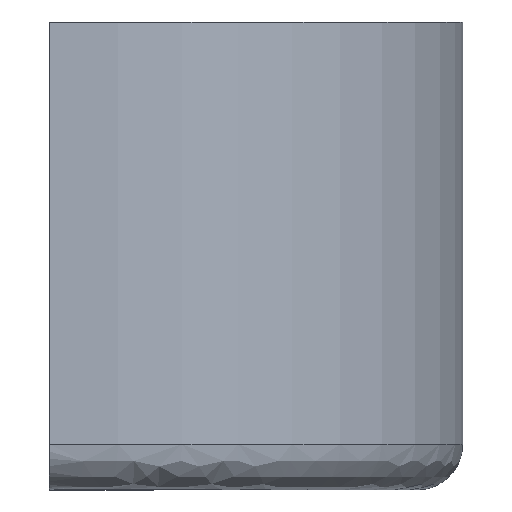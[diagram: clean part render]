
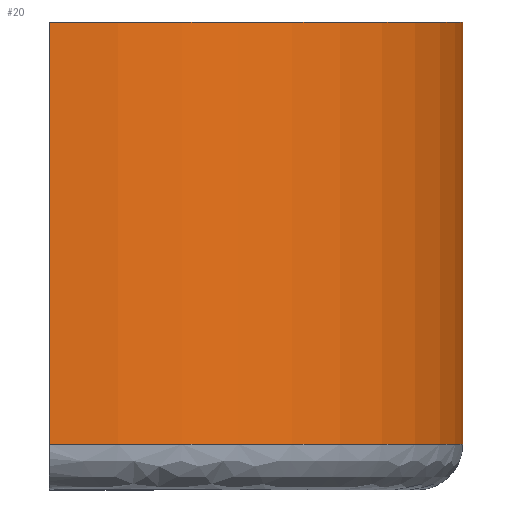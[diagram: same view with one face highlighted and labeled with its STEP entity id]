
A CAD part, left-side view. The second image highlights one B-rep face of the part: STEP entity #20.
In plain terms, the highlighted free-form (B-spline) face has degree [2, 1] with [3, 2] control points.
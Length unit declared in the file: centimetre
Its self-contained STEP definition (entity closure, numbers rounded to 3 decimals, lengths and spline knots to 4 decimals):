
#20=ADVANCED_FACE('',(#39),#269,.T.);
#39=FACE_OUTER_BOUND('',#59,.T.);
#59=EDGE_LOOP('',(#91,#92,#93,#94));
#91=ORIENTED_EDGE('',*,*,#165,.T.);
#92=ORIENTED_EDGE('',*,*,#155,.F.);
#93=ORIENTED_EDGE('',*,*,#166,.F.);
#94=ORIENTED_EDGE('',*,*,#162,.F.);
#155=EDGE_CURVE('',#239,#238,#194,.T.);
#162=EDGE_CURVE('',#246,#243,#198,.T.);
#165=EDGE_CURVE('',#246,#238,#219,.T.);
#166=EDGE_CURVE('',#243,#239,#220,.T.);
#194=B_SPLINE_CURVE_WITH_KNOTS('',1,(#690,#691),.UNSPECIFIED.,.F.,.F.,(2,
2),(-2.0743,-0.7762),.UNSPECIFIED.);
#198=B_SPLINE_CURVE_WITH_KNOTS('',1,(#707,#708),.UNSPECIFIED.,.F.,.F.,(2,
2),(49.6127,52.5616),.UNSPECIFIED.);
#219=(
BOUNDED_CURVE()
B_SPLINE_CURVE(2,(#715,#716,#717),.UNSPECIFIED.,.F.,.F.)
B_SPLINE_CURVE_WITH_KNOTS((3,3),(18.8491,25.1321),
 .UNSPECIFIED.)
CURVE()
GEOMETRIC_REPRESENTATION_ITEM()
RATIONAL_B_SPLINE_CURVE((1.,0.707,1.))
REPRESENTATION_ITEM('')
);
#220=(
BOUNDED_CURVE()
B_SPLINE_CURVE(2,(#718,#719,#720),.UNSPECIFIED.,.F.,.F.)
B_SPLINE_CURVE_WITH_KNOTS((3,3),(23.5619,31.4159),
 .UNSPECIFIED.)
CURVE()
GEOMETRIC_REPRESENTATION_ITEM()
RATIONAL_B_SPLINE_CURVE((1.,0.707,1.))
REPRESENTATION_ITEM('')
);
#238=VERTEX_POINT('',#667);
#239=VERTEX_POINT('',#668);
#243=VERTEX_POINT('',#672);
#246=VERTEX_POINT('',#675);
#269=(
BOUNDED_SURFACE()
B_SPLINE_SURFACE(2,1,((#602,#603),(#604,#605),(#606,#607)),
 .UNSPECIFIED.,.F.,.F.,.F.)
B_SPLINE_SURFACE_WITH_KNOTS((3,3),(2,2),(23.5619,31.4159),
(0.7762,2.0743),.UNSPECIFIED.)
GEOMETRIC_REPRESENTATION_ITEM()
RATIONAL_B_SPLINE_SURFACE(((1.,1.),(0.707,0.707),
(1.,1.)))
REPRESENTATION_ITEM('')
SURFACE()
);
#602=CARTESIAN_POINT('',(16.2149,0.,0.5));
#603=CARTESIAN_POINT('',(16.2149,0.,5.0909));
#604=CARTESIAN_POINT('',(16.2149,-4.5,0.5));
#605=CARTESIAN_POINT('',(16.2149,-4.5,5.0909));
#606=CARTESIAN_POINT('',(20.7149,-4.5,0.5));
#607=CARTESIAN_POINT('',(20.7149,-4.5,5.0909));
#667=CARTESIAN_POINT('',(20.7149,-4.5,0.5));
#668=CARTESIAN_POINT('',(20.7149,-4.5,5.0909));
#672=CARTESIAN_POINT('',(16.2149,0.,5.0909));
#675=CARTESIAN_POINT('',(16.2149,0.,0.5));
#690=CARTESIAN_POINT('',(20.7149,-4.5,5.0909));
#691=CARTESIAN_POINT('',(20.7149,-4.5,0.5));
#707=CARTESIAN_POINT('',(16.2149,0.,0.5));
#708=CARTESIAN_POINT('',(16.2149,0.,5.0909));
#715=CARTESIAN_POINT('',(16.2149,0.,0.5));
#716=CARTESIAN_POINT('',(16.2149,-4.5,0.5));
#717=CARTESIAN_POINT('',(20.7149,-4.5,0.5));
#718=CARTESIAN_POINT('',(16.2149,0.,5.0909));
#719=CARTESIAN_POINT('',(16.2149,-4.5,5.0909));
#720=CARTESIAN_POINT('',(20.7149,-4.5,5.0909));
